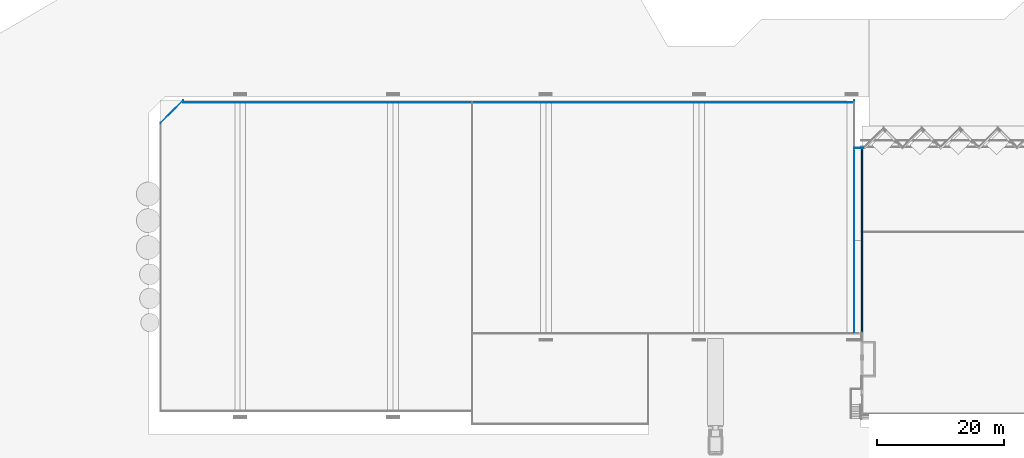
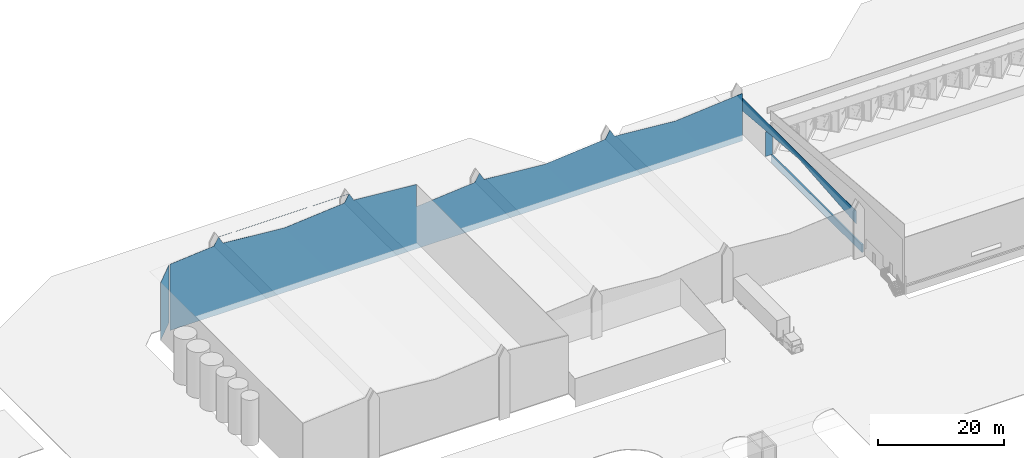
# One storey, part 20 of 64: 5 walls, 4 openings.
"""IFC2X3 building model written with IfcOpenShell, lengths in millimetres."""

from ifc_helpers import new_model, entity, si_unit, converted_unit, derived_unit, direction, frame, frame_2d, origin, place, context, subcontext, project, spatial, polyline, rectangle, outline, extrude, clip, halfspace, material, layer, layer_set, layer_usage, type_object, element, save


model = new_model("IFC2X3")

# Units and contexts
model_context = context("Model", 3, precision=0.01, world=origin(), true_north=direction((4.05803320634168e-15, -1.0)))
body_context = subcontext(model_context, "Body", "Model", "MODEL_VIEW")
ifc_project = project(units=[si_unit("LENGTHUNIT", "METRE", prefix="MILLI"), si_unit("AREAUNIT", "SQUARE_METRE"), si_unit("VOLUMEUNIT", "CUBIC_METRE"), converted_unit("PLANEANGLEUNIT", "DEGREE", entity("IfcRatioMeasure", 0.0174532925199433), si_unit("PLANEANGLEUNIT", "RADIAN"), dimensions=[0, 0, 0, 0, 0, 0, 0]), si_unit("MASSUNIT", "GRAM", prefix="KILO"), derived_unit("MASSDENSITYUNIT", [(si_unit("MASSUNIT", "GRAM", prefix="KILO"), 1), (si_unit("LENGTHUNIT", "METRE"), -3)]), si_unit("TIMEUNIT", "SECOND"), si_unit("FREQUENCYUNIT", "HERTZ"), si_unit("THERMODYNAMICTEMPERATUREUNIT", "DEGREE_CELSIUS"), derived_unit("THERMALTRANSMITTANCEUNIT", [(si_unit("MASSUNIT", "GRAM", prefix="KILO"), 1), (si_unit("THERMODYNAMICTEMPERATUREUNIT", "KELVIN"), -1), (si_unit("TIMEUNIT", "SECOND"), -3)]), derived_unit("VOLUMETRICFLOWRATEUNIT", [(si_unit("LENGTHUNIT", "METRE"), 3), (si_unit("TIMEUNIT", "SECOND"), -1)]), si_unit("ELECTRICCURRENTUNIT", "AMPERE"), si_unit("ELECTRICVOLTAGEUNIT", "VOLT"), si_unit("POWERUNIT", "WATT"), si_unit("FORCEUNIT", "NEWTON", prefix="KILO"), si_unit("ILLUMINANCEUNIT", "LUX"), si_unit("LUMINOUSFLUXUNIT", "LUMEN"), si_unit("LUMINOUSINTENSITYUNIT", "CANDELA"), derived_unit("USERDEFINED", [(si_unit("MASSUNIT", "GRAM", prefix="KILO"), -1), (si_unit("LENGTHUNIT", "METRE"), -2), (si_unit("TIMEUNIT", "SECOND"), 3), (si_unit("LUMINOUSFLUXUNIT", "LUMEN"), 1)]), derived_unit("LINEARVELOCITYUNIT", [(si_unit("LENGTHUNIT", "METRE"), 1), (si_unit("TIMEUNIT", "SECOND"), -1)]), si_unit("PRESSUREUNIT", "PASCAL"), derived_unit("USERDEFINED", [(si_unit("LENGTHUNIT", "METRE"), -2), (si_unit("MASSUNIT", "GRAM", prefix="KILO"), 1), (si_unit("TIMEUNIT", "SECOND"), -2)])], contexts=[model_context])

# Site, building, storey
site_placement = place(None, frame((927466.849349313, 583801.882853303, 0.0), z_axis=(0.0, 0.0, 1.0), x_axis=(-1.0, 0.0, 0.0)))
site = spatial("IfcSite", under=ifc_project, at=site_placement, Name="Surface", CompositionType="ELEMENT")
building_placement = place(site_placement, origin())
building = spatial("IfcBuilding", under=site, at=building_placement, CompositionType="ELEMENT")
storey_placement = place(building_placement, frame((0.0, 0.0, 44170.0)))
storey = spatial("IfcBuildingStorey", under=building, at=storey_placement, Name="Ground FFL", CompositionType="ELEMENT", Elevation=44170.0)

# Wall
ifc_material_1 = material(Name="Side cladding")
ifc_layer_1 = layer(ifc_material_1, 38.0)
ifc_layer_set_1 = layer_set([ifc_layer_1], Name="Basic Wall:Cladding dark")
ifc_layer_usage_1 = layer_usage(ifc_layer_set_1, "AXIS2", "NEGATIVE", 19.0)
wall_type_1 = type_object("IfcWallType", Name="Basic Wall:Cladding dark", PredefinedType="STANDARD", material=ifc_layer_set_1)
wall_1_placement = place(storey_placement, frame((61756.7279334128, -37966.3261393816, 0.0), z_axis=(0.0, 0.0, 1.0), x_axis=(0.70710678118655, 0.707106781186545, 0.0)))
element("IfcWallStandardCase", 1, at=wall_1_placement, inside=storey, type_object=wall_type_1, material=ifc_layer_usage_1, Name="Basic Wall:Cladding dark", ObjectType="Basic Wall:Cladding dark", context=body_context, shape_type="SweptSolid", body=[
    extrude(outline(polyline([(5023.61017305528, -19.0), (5061.61017305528, 19.0), (5007.87005768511, 19.0), (0.0, 19.0), (0.0, -19.0), (5023.61017305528, -19.0)])), origin(), (0.0, 0.0, 1.0), 11220.0),
])

# Wall, opening
ifc_layer_usage_2 = layer_usage(ifc_layer_set_1, "AXIS2", "NEGATIVE", 19.0)
wall_2_placement = place(storey_placement, frame((-43531.5353133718, -37966.326139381, 4479.11042010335), z_axis=(0.0, 0.0, 1.0), x_axis=(0.0, 1.0, 0.0)))
wall_2 = element("IfcWallStandardCase", 2, at=wall_2_placement, inside=storey, type_object=wall_type_1, material=ifc_layer_usage_2, Name="Basic Wall:Cladding dark", ObjectType="Basic Wall:Cladding dark", context=body_context, shape_type="Clipping", body=[
    clip(extrude(rectangle(XDim=36606.9615196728, YDim=37.9999999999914, at=frame_2d((18303.4807598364, -1.50102152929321e-12), x_axis=(-1.0, 0.0))), origin(), (0.0, 0.0, 1.0), 2580.88957989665), halfspace(frame((36625.9615196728, 0.0, 0.563616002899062), z_axis=(1.53884288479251e-05, 0.0, -1.0), x_axis=(0.0, -1.0, 0.0)), False)),
])
opening_1_placement = place(wall_2_placement, origin())
element("IfcOpeningElement", 3, at=opening_1_placement, cuts=wall_2, Name="Basic Wall:Cladding dark", ObjectType="Opening", context=body_context, shape_type="SweptSolid", body=[
    extrude(outline(polyline([(-18288.7465143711, -1064.24145045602), (90.9534727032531, -1064.24145045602), (18197.7930416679, 2128.48290091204), (-18288.7465143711, -1064.24145045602)])), frame((18314.0544532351, 19.0, 534.34121195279), z_axis=(0.0, -1.0, 0.0), x_axis=(-0.996194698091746, 0.0, 0.0871557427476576)), (0.0, 0.0, 1.0), 38.0),
])

# Wall, openings
ifc_layer_usage_3 = layer_usage(ifc_layer_set_1, "AXIS2", "NEGATIVE", 19.0)
wall_3_placement = place(storey_placement, frame((-43512.5353133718, -37616.7517261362, -1300.0)))
wall_3 = element("IfcWallStandardCase", 4, at=wall_3_placement, inside=storey, type_object=wall_type_1, material=ifc_layer_usage_3, Name="Basic Wall:Cladding dark", ObjectType="Basic Wall:Cladding dark", context=body_context, shape_type="Clipping", body=[
    clip(clip(clip(extrude(rectangle(XDim=105269.263246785, YDim=38.0, at=frame_2d((52634.6316233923, -3.97903932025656e-13), x_axis=(-1.0, 0.0))), origin(), (0.0, 0.0, 1.0), 15042.3898781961), halfspace(frame((-19.0, 0.0, 9258.47560739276), z_axis=(-0.0796738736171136, 0.0, 0.996820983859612), x_axis=(0.0, -1.0, 0.0)), False)), halfspace(frame((72345.0868986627, 0.0, 15042.3898781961), z_axis=(1.2532281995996e-06, 0.0, 1.0), x_axis=(0.0, -1.0, 0.0)), False)), halfspace(frame((96345.0621842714, 0.0, 15042.3598007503), z_axis=(0.236437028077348, 0.0, 0.97164681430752), x_axis=(0.0, -1.0, 0.0)), False)),
])
opening_2_placement = place(wall_3_placement, origin())
element("IfcOpeningElement", 5, at=opening_2_placement, cuts=wall_3, Name="Basic Wall:Cladding dark", ObjectType="Opening", context=body_context, shape_type="SweptSolid", body=[
    extrude(outline(polyline([(-40600.9630199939, -4477.21789382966), (-28161.5307763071, -4477.21789382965), (-17161.0059719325, -2550.51251030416), (-16428.5222994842, -984.380240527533), (-15438.6201918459, -2401.55763770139), (-4260.49802787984, -2414.35594640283), (6750.18132817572, -485.87202687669), (7482.52974370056, 1079.97104842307), (8472.45617943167, -337.241177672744), (19227.1216493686, -349.55465274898), (18856.3901546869, 3944.54602842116), (30265.0346830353, 5943.72846286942), (30997.4265490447, 7509.66444017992), (-40600.9630199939, -4477.21789382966)])), frame((40816.5974344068, 19.0, 10226.8042679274), z_axis=(0.0, -1.0, 0.0), x_axis=(0.996293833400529, 0.0, -0.0860151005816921)), (0.0, 0.0, 1.0), 38.0),
])
opening_3_placement = place(wall_3_placement, origin())
element("IfcOpeningElement", 6, at=opening_3_placement, cuts=wall_3, Name="Basic Wall:Cladding dark", ObjectType="Opening", context=body_context, shape_type="SweptSolid", body=[
    extrude(outline(polyline([(-6923.77177335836, -9824.2869511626), (-5194.99953957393, -9824.2869511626), (1119.79341917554, -805.827974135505), (5922.73597647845, 9494.11557881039), (5076.24191727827, 10960.2862976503), (-6923.77177335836, -9824.2869511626)])), frame((84315.0548591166, 19.0, 13958.3711080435), z_axis=(0.0, -1.0, 0.0), x_axis=(0.500000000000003, 0.0, -0.866025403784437)), (0.0, 0.0, 1.0), 38.0),
])
opening_4_placement = place(wall_3_placement, origin())
element("IfcOpeningElement", 7, at=opening_4_placement, cuts=wall_3, Name="Basic Wall:Cladding dark", ObjectType="Opening", context=body_context, shape_type="SweptSolid", body=[
    extrude(outline(polyline([(-2678.05297208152, -2214.26446461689), (-986.640518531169, -2214.26446461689), (3664.69349061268, 4428.52892923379), (-2678.05297208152, -2214.26446461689)])), frame((99601.6979473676, 19.0, 13830.2301265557), z_axis=(0.0, -1.0, 0.0), x_axis=(0.499999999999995, 0.0, -0.866025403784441)), (0.0, 0.0, 1.0), 38.0),
])

# Walls
ifc_material_2 = material(Name="Isopenal")
ifc_layer_2 = layer(ifc_material_2, 100.0)
ifc_layer_set_2 = layer_set([ifc_layer_2], Name="Basic Wall:Isopanel")
ifc_layer_usage_4 = layer_usage(ifc_layer_set_2, "AXIS2", "NEGATIVE", 50.0)
wall_type_2 = type_object("IfcWallType", Name="Basic Wall:Isopanel", PredefinedType="STANDARD", material=ifc_layer_set_2)
wall_4_placement = place(storey_placement, frame((-44977.2684992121, -30471.7403210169, 0.0)))
element("IfcWallStandardCase", 8, at=wall_4_placement, inside=storey, type_object=wall_type_2, material=ifc_layer_usage_4, Name="Basic Wall:Isopanel", ObjectType="Basic Wall:Isopanel", context=body_context, shape_type="SweptSolid", body=[
    extrude(outline(polyline([(1426.87660105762, -50.0), (1426.87660105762, 50.0), (100.0, 50.0), (0.0, -50.0), (1426.87660105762, -50.0)])), origin(), (0.0, 0.0, 1.0), 4700.00000000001),
])
ifc_material_3 = material(Name="conc bund")
ifc_layer_3 = layer(ifc_material_3, 300.0)
ifc_layer_set_3 = layer_set([ifc_layer_3], Name="Basic Wall:300 bund wall")
ifc_layer_usage_5 = layer_usage(ifc_layer_set_3, "AXIS2", "NEGATIVE", 150.0)
wall_type_3 = type_object("IfcWallType", Name="Basic Wall:300 bund wall", PredefinedType="STANDARD", material=ifc_layer_set_3)
wall_5_placement = place(storey_placement, frame((-44749.0423298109, -1493.72224878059, -1500.50294636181), z_axis=(0.0, 0.0, 1.0), x_axis=(0.0, -1.0, 0.0)))
element("IfcWallStandardCase", 9, at=wall_5_placement, inside=storey, type_object=wall_type_3, material=ifc_layer_usage_5, Name="Basic Wall:300 bund wall", ObjectType="Basic Wall:300 bund wall", context=body_context, shape_type="SweptSolid", body=[
    extrude(rectangle(XDim=28978.0180722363, YDim=300.000000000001, at=frame_2d((14489.0090361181, -8.5265128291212e-14), x_axis=(-1.0, 0.0))), origin(), (0.0, 0.0, 1.0), 1500.50294636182),
])

save(model, "model.ifc")
